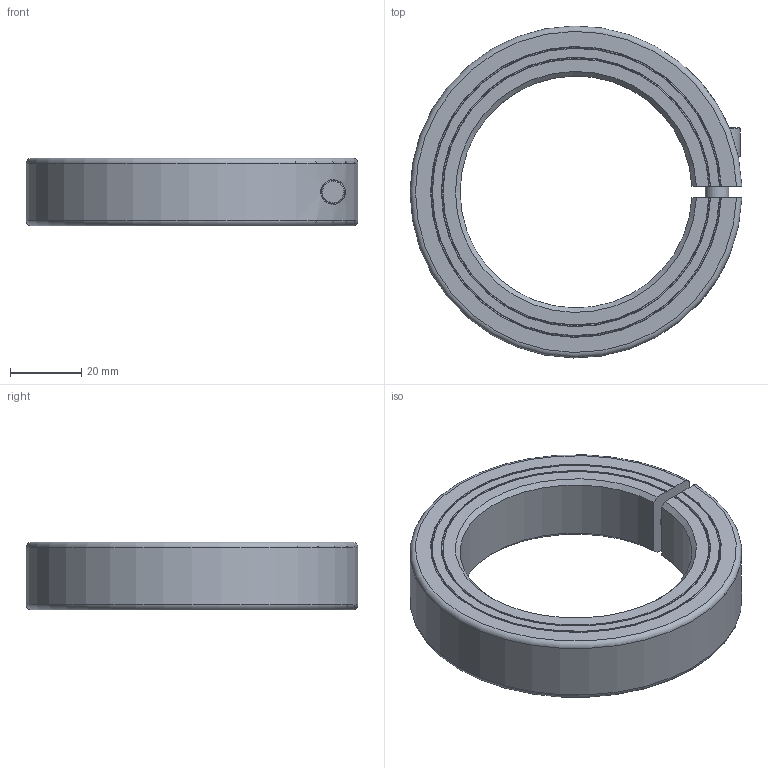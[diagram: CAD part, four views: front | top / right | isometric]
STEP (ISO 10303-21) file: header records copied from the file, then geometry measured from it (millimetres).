
FILE_DESCRIPTION((''),'2;1');
FILE_NAME('MCL-65-F','2016-09-08T',('SYSTEM'),(''),'PRO/ENGINEER BY PARAMETRIC TECHNOLOGY CORPORATION, 2015110','PRO/ENGINEER BY PARAMETRIC TECHNOLOGY CORPORATION, 2015110','');
FILE_SCHEMA(('AUTOMOTIVE_DESIGN { 1 0 10303 214 1 1 1 1 }'));
Length unit declared in the file: inch
Products named in the file (1): MCL-65-F
Bounding box: 92.97 x 92.99 x 19 mm (x, y, z)
Volume: 62770.3 mm3; surface area: 18078.4 mm2
Topology: 1 solids, 1 shells, 50 faces, 130 edges, 86 vertices
Faces by surface type: plane 18, cylinder 14, cone 13, torus 5
Entity records: 2078 total; most frequent: CARTESIAN_POINT 426, ORIENTED_EDGE 260, DIRECTION 259, EDGE_CURVE 130, AXIS2_PLACEMENT_3D 104, VERTEX_POINT 86, EDGE_LOOP 56, CIRCLE 54
